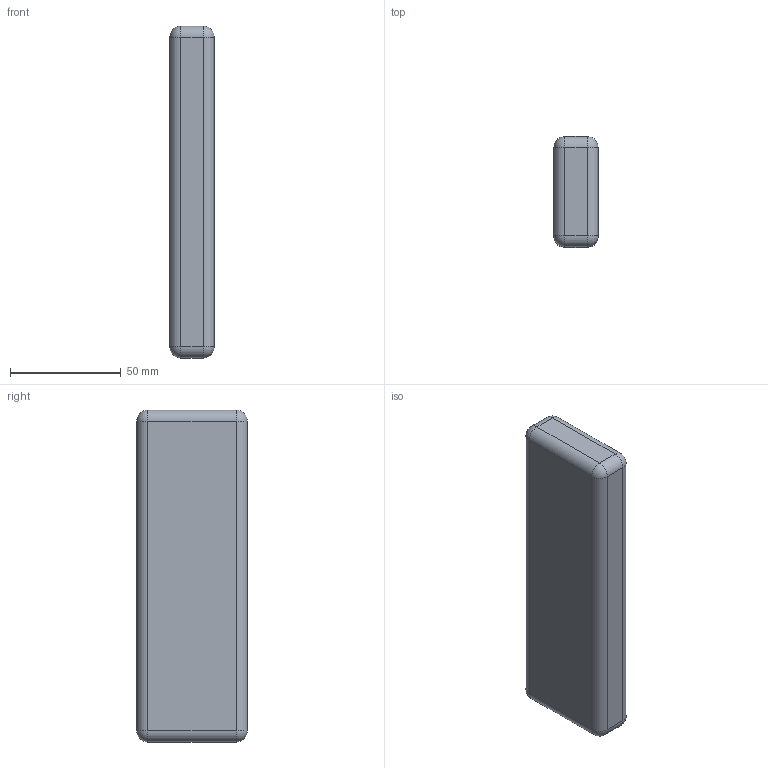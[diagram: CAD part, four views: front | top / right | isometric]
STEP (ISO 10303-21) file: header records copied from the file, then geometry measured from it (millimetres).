
FILE_DESCRIPTION(/* description */ ('STEP AP242 Edition 2','CAx-IF Rec.Pracs.---Representation and Presentation of Product Manufacturing Information (PMI)---4.0---2014-10-13','CAx-IF Rec.Pracs.---3D Tessellated Geometry---0.4---2014-09-14','2;1','CAx-IF Rec.Pracs.---User Defined Attributes---1.5---2016-08-15'),/* implementation_level */ '2;1');
FILE_NAME(/* name */ 'Assem2h - ZIPPY Flightmax 2100mAh 3S1P 30C LiFePo4 Pack v5.step[1]',/* time_stamp */ '2025-12-01T14:50:39Z',/* author */ (''),/* organization */ (''),/* preprocessor_version */ 'ST-DEVELOPER v20',/* originating_system */ 'ONSHAPE BY PTC INC, 1.207',/* authorisation */ ' ');
FILE_SCHEMA (('AP242_MANAGED_MODEL_BASED_3D_ENGINEERING_MIM_LF { 1 0 10303 442 3 1 4 }'));
Length unit declared in the file: metre
Products named in the file (1): ZIPPY Flightmax 2100mAh 3S1P 30C LiFePo4 Pack v5.step[1]
Bounding box: 20 x 50 x 150 mm (x, y, z)
Volume: 145446.2 mm3; surface area: 21083.2 mm2
Topology: 1 solids, 1 shells, 26 faces, 48 edges, 24 vertices
Faces by surface type: cylinder 12, sphere 8, plane 6
Entity records: 646 total; most frequent: DIRECTION 126, CARTESIAN_POINT 99, ORIENTED_EDGE 96, AXIS2_PLACEMENT_3D 51, EDGE_CURVE 48, EDGE_LOOP 26, FACE_BOUND 26, ADVANCED_FACE 26
